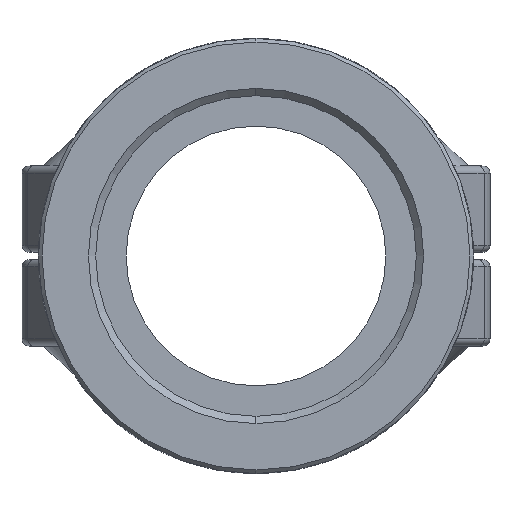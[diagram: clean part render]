
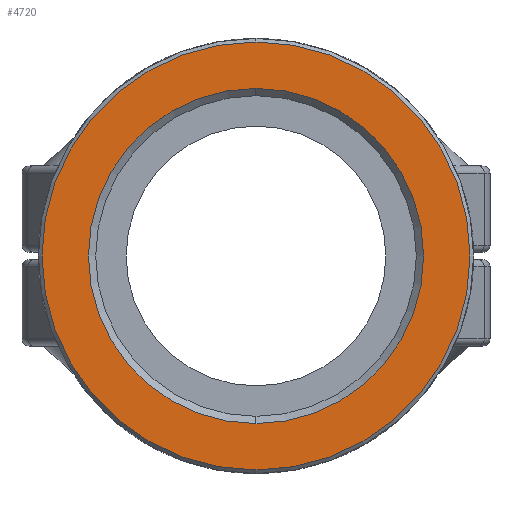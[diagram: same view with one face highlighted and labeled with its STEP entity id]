
A CAD part, left-side view. The second image highlights one B-rep face of the part: STEP entity #4720.
In plain terms, the highlighted planar face has unit normal (-1, 0, 0).
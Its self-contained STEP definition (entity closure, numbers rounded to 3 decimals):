
#1868=CARTESIAN_POINT('',(-76.811,0.,0.));
#1869=DIRECTION('',(1.,0.,0.));
#1870=DIRECTION('',(0.,0.,-1.));
#1871=AXIS2_PLACEMENT_3D('',#1868,#1869,#1870);
#1876=CARTESIAN_POINT('',(-76.811,0.,0.));
#1877=DIRECTION('',(1.,0.,0.));
#1878=DIRECTION('',(0.,0.,1.));
#1879=AXIS2_PLACEMENT_3D('',#1876,#1877,#1878);
#1884=CARTESIAN_POINT('',(-76.811,0.,0.));
#1885=DIRECTION('',(-1.,0.,0.));
#1886=DIRECTION('',(0.,0.,-1.));
#1887=AXIS2_PLACEMENT_3D('',#1884,#1885,#1886);
#1892=CARTESIAN_POINT('',(-76.811,0.,0.));
#1893=DIRECTION('',(-1.,0.,0.));
#1894=DIRECTION('',(0.,0.,1.));
#1895=AXIS2_PLACEMENT_3D('',#1892,#1893,#1894);
#2013=CARTESIAN_POINT('',(-76.811,0.,29.72));
#2014=VERTEX_POINT('',#2013);
#2015=CARTESIAN_POINT('',(-76.811,0.,-29.72));
#2016=VERTEX_POINT('',#2015);
#2168=CARTESIAN_POINT('',(-76.811,0.,23.272));
#2169=CARTESIAN_POINT('',(-76.811,0.,-23.272));
#2170=VERTEX_POINT('',#2168);
#2171=VERTEX_POINT('',#2169);
#4706=CARTESIAN_POINT('',(-76.811,22.265,0.));
#4707=DIRECTION('',(-1.,0.,0.));
#4708=DIRECTION('',(0.,0.,1.));
#4709=AXIS2_PLACEMENT_3D('',#4706,#4707,#4708);
#4710=PLANE('',#4709);
#4711=ORIENTED_EDGE('',*,*,#2393,.T.);
#4712=ORIENTED_EDGE('',*,*,#2408,.T.);
#4713=EDGE_LOOP('',(#4711,#4712));
#4714=FACE_OUTER_BOUND('',#4713,.F.);
#4716=ORIENTED_EDGE('',*,*,#4715,.T.);
#4717=ORIENTED_EDGE('',*,*,#4696,.T.);
#4718=EDGE_LOOP('',(#4716,#4717));
#4719=FACE_BOUND('',#4718,.F.);
#1872=CIRCLE('',#1871,29.72);
#1880=CIRCLE('',#1879,29.72);
#1888=CIRCLE('',#1887,23.272);
#1896=CIRCLE('',#1895,23.272);
#2393=EDGE_CURVE('',#2016,#2014,#1872,.T.);
#2408=EDGE_CURVE('',#2014,#2016,#1880,.T.);
#4696=EDGE_CURVE('',#2170,#2171,#1896,.T.);
#4715=EDGE_CURVE('',#2171,#2170,#1888,.T.);
#4720=ADVANCED_FACE('',(#4714,#4719),#4710,.T.);
